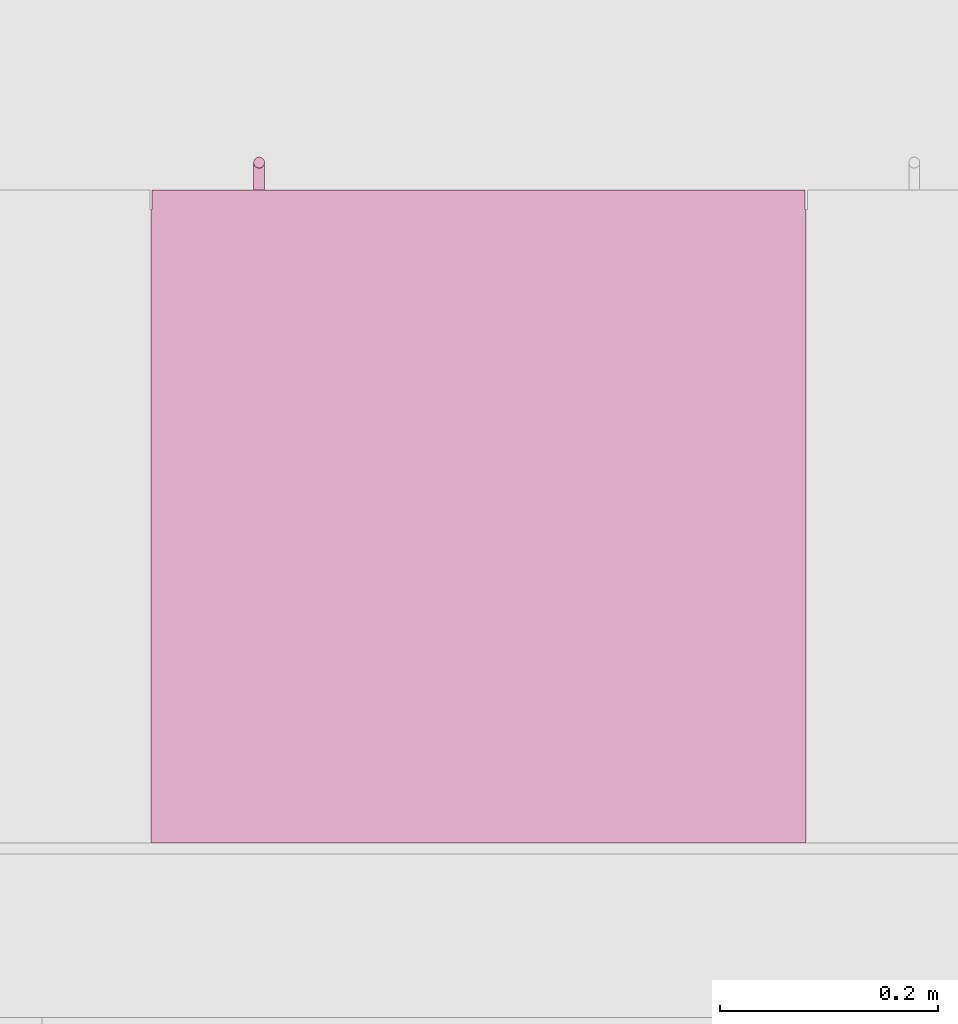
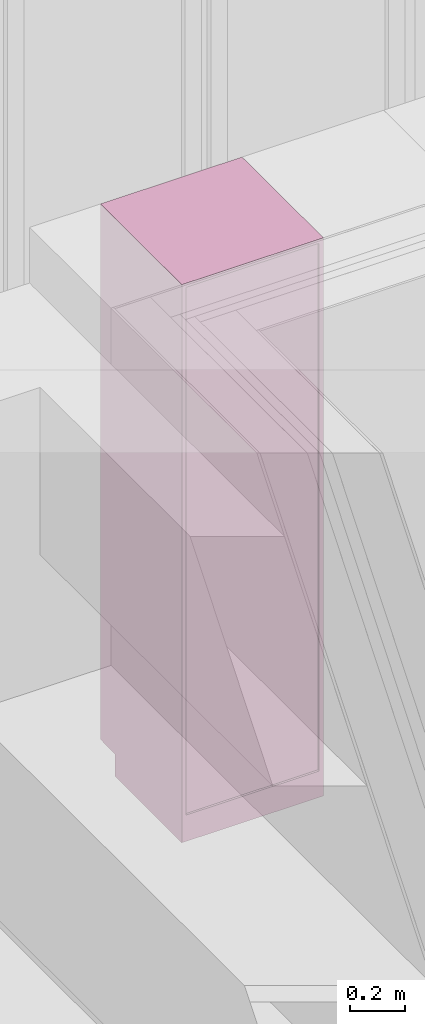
# One storey, part 28 of 34: 1 furniture element.
"""IFC4 building model written with IfcOpenShell, lengths in millimetres."""

from ifc_helpers import new_model, entity, si_unit, converted_unit, derived_unit, direction, frame, origin_with_axes, place, context, subcontext, project, spatial, polygons, source, transform, mapped, type_object, element, save


model = new_model("IFC4")

# Units and contexts
model_context = context("Model", 3, precision=0.01, world=origin_with_axes(), true_north=direction((0.0, 1.0)))
body_context = subcontext(model_context, "Body", "Model", "MODEL_VIEW")
ifc_project = project(units=[si_unit("LENGTHUNIT", "METRE", prefix="MILLI"), si_unit("AREAUNIT", "SQUARE_METRE"), si_unit("VOLUMEUNIT", "CUBIC_METRE"), converted_unit("PLANEANGLEUNIT", "DEGREE", entity("IfcPlaneAngleMeasure", 0.0174532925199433), si_unit("PLANEANGLEUNIT", "RADIAN"), dimensions=[0, 0, 0, 0, 0, 0, 0]), converted_unit("TIMEUNIT", "Year", entity("IfcTimeMeasure", 31557600.0), si_unit("TIMEUNIT", "SECOND"), dimensions=[0, 0, 1, 0, 0, 0, 0]), si_unit("MASSUNIT", "GRAM", prefix="KILO"), si_unit("THERMODYNAMICTEMPERATUREUNIT", "DEGREE_CELSIUS"), si_unit("LUMINOUSINTENSITYUNIT", "LUMEN"), si_unit("ENERGYUNIT", "JOULE", prefix="MEGA"), derived_unit("THERMALCONDUCTANCEUNIT", [(si_unit("POWERUNIT", "WATT"), 1), (si_unit("LENGTHUNIT", "METRE"), -1), (si_unit("THERMODYNAMICTEMPERATUREUNIT", "KELVIN"), -1)]), derived_unit("SPECIFICHEATCAPACITYUNIT", [(si_unit("ENERGYUNIT", "JOULE"), 1), (si_unit("MASSUNIT", "GRAM", prefix="KILO"), -1), (si_unit("THERMODYNAMICTEMPERATUREUNIT", "KELVIN"), -1)]), derived_unit("MASSDENSITYUNIT", [(si_unit("MASSUNIT", "GRAM", prefix="KILO"), 1), (si_unit("VOLUMEUNIT", "CUBIC_METRE"), -1)])], contexts=[model_context])

# Site, building, storey
site_placement = place(None, origin_with_axes())
site = spatial("IfcSite", under=ifc_project, at=site_placement, Name="Gelände", CompositionType="ELEMENT")
building_placement = place(site_placement, origin_with_axes())
building = spatial("IfcBuilding", under=site, at=building_placement, Name="Gebäude", CompositionType="ELEMENT")
storey_placement = place(building_placement, frame((0.0, 0.0, 5799.999999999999), z_axis=(0.0, 0.0, 1.0), x_axis=(1.0, 0.0, 0.0)))
storey = spatial("IfcBuildingStorey", under=building, at=storey_placement, Name="2.OG", CompositionType="ELEMENT", Elevation=5800.0)

# Furniture
furniture_type = type_object("IfcFurnitureType", Name="Stehender Schrank Block 27", AssemblyPlace="NOTDEFINED", PredefinedType="NOTDEFINED")
shared_shape = source(origin_with_axes(), body_context, "Body", "Tessellation", [
    polygons([(501.8682408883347, -597.9999999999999, 1352.799038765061), (502.7101007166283, -597.9999999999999, 1352.573463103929), (503.4999999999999, -597.9999999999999, 1352.205127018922), (504.2139380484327, -597.9999999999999, 1351.705222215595), (504.8302222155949, -597.9999999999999, 1351.088938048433), (505.3301270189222, -597.9999999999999, 1350.375), (505.6984631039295, -597.9999999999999, 1349.585100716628), (505.924038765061, -597.9999999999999, 1348.743240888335), (506.0, -597.9999999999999, 1347.875), (505.924038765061, -597.9999999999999, 1347.006759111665), (505.6984631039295, -597.9999999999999, 1346.164899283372), (505.3301270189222, -597.9999999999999, 1345.375), (504.8302222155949, -597.9999999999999, 1344.661061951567), (504.2139380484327, -597.9999999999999, 1344.044777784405), (503.4999999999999, -597.9999999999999, 1343.544872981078), (502.7101007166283, -597.9999999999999, 1343.176536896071), (501.8682408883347, -597.9999999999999, 1342.950961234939), (501.0, -597.9999999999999, 1342.875), (500.1317591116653, -597.9999999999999, 1342.950961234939), (499.2898992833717, -597.9999999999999, 1343.176536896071), (498.5, -597.9999999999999, 1343.544872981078), (497.7860619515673, -597.9999999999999, 1344.044777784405), (497.1697777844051, -597.9999999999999, 1344.661061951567), (496.6698729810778, -597.9999999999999, 1345.375), (496.3015368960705, -597.9999999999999, 1346.164899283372), (496.075961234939, -597.9999999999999, 1347.006759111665), (496.0, -597.9999999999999, 1347.875), (496.075961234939, -597.9999999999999, 1348.743240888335), (496.3015368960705, -597.9999999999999, 1349.585100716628), (496.6698729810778, -597.9999999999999, 1350.375), (497.1697777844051, -597.9999999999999, 1351.088938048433), (497.7860619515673, -597.9999999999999, 1351.705222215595), (498.5, -597.9999999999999, 1352.205127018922), (499.2898992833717, -597.9999999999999, 1352.573463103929), (500.1317591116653, -597.9999999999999, 1352.799038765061), (501.0, -597.9999999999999, 1352.875), (501.8682408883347, -622.9999999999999, 1352.799038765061), (502.7101007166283, -622.9999999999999, 1352.573463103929), (503.4999999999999, -622.9999999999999, 1352.205127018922), (504.2139380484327, -622.9999999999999, 1351.705222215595), (504.8302222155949, -622.9999999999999, 1351.088938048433), (505.3301270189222, -622.9999999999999, 1350.375), (505.6984631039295, -622.9999999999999, 1349.585100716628), (505.924038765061, -622.9999999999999, 1348.743240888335), (506.0, -622.9999999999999, 1347.875), (505.924038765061, -622.9999999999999, 1347.006759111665), (505.6984631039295, -622.9999999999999, 1346.164899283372), (505.3301270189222, -622.9999999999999, 1345.375), (504.8302222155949, -622.9999999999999, 1344.661061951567), (504.2139380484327, -622.9999999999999, 1344.044777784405), (503.4999999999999, -622.9999999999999, 1343.544872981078), (502.7101007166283, -622.9999999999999, 1343.176536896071), (501.8682408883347, -622.9999999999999, 1342.950961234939), (501.0, -622.9999999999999, 1342.875), (500.1317591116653, -622.9999999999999, 1342.950961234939), (499.2898992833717, -622.9999999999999, 1343.176536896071), (498.5, -622.9999999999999, 1343.544872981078), (497.7860619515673, -622.9999999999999, 1344.044777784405), (497.1697777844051, -622.9999999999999, 1344.661061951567), (496.6698729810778, -622.9999999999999, 1345.375), (496.3015368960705, -622.9999999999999, 1346.164899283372), (496.075961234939, -622.9999999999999, 1347.006759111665), (496.0, -622.9999999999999, 1347.875), (496.075961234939, -622.9999999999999, 1348.743240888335), (496.3015368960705, -622.9999999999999, 1349.585100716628), (496.6698729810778, -622.9999999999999, 1350.375), (497.1697777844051, -622.9999999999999, 1351.088938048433), (497.7860619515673, -622.9999999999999, 1351.705222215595), (498.5, -622.9999999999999, 1352.205127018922), (499.2898992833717, -622.9999999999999, 1352.573463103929), (500.1317591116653, -622.9999999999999, 1352.799038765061), (501.0, -622.9999999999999, 1352.875)], [[[1, 2, 3, 4, 5, 6, 7, 8, 9, 10, 11, 12, 13, 14, 15, 16, 17, 18, 19, 20, 21, 22, 23, 24, 25, 26, 27, 28, 29, 30, 31, 32, 33, 34, 35, 36]], [[2, 1, 37, 38]], [[3, 2, 38, 39]], [[4, 3, 39, 40]], [[5, 4, 40, 41]], [[6, 5, 41, 42]], [[7, 6, 42, 43]], [[8, 7, 43, 44]], [[9, 8, 44, 45]], [[10, 9, 45, 46]], [[11, 10, 46, 47]], [[12, 11, 47, 48]], [[13, 12, 48, 49]], [[14, 13, 49, 50]], [[15, 14, 50, 51]], [[16, 15, 51, 52]], [[17, 16, 52, 53]], [[18, 17, 53, 54]], [[19, 18, 54, 55]], [[20, 19, 55, 56]], [[21, 20, 56, 57]], [[22, 21, 57, 58]], [[23, 22, 58, 59]], [[24, 23, 59, 60]], [[25, 24, 60, 61]], [[26, 25, 61, 62]], [[27, 26, 62, 63]], [[28, 27, 63, 64]], [[29, 28, 64, 65]], [[30, 29, 65, 66]], [[31, 30, 66, 67]], [[32, 31, 67, 68]], [[33, 32, 68, 69]], [[34, 33, 69, 70]], [[35, 34, 70, 71]], [[36, 35, 71, 72]], [[1, 36, 72, 37]], [[37, 72, 71, 70, 69, 68, 67, 66, 65, 64, 63, 62, 61, 60, 59, 58, 57, 56, 55, 54, 53, 52, 51, 50, 49, 48, 47, 46, 45, 44, 43, 42, 41, 40, 39, 38]]], closed=True),
    polygons([(501.8682408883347, -597.9999999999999, 1249.200961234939), (501.0, -597.9999999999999, 1249.125), (500.1317591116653, -597.9999999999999, 1249.200961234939), (499.2898992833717, -597.9999999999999, 1249.426536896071), (498.5, -597.9999999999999, 1249.794872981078), (497.7860619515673, -597.9999999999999, 1250.294777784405), (497.1697777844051, -597.9999999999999, 1250.911061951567), (496.6698729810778, -597.9999999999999, 1251.625), (496.3015368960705, -597.9999999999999, 1252.414899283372), (496.075961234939, -597.9999999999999, 1253.256759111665), (496.0, -597.9999999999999, 1254.125), (496.075961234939, -597.9999999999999, 1254.993240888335), (496.3015368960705, -597.9999999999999, 1255.835100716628), (496.6698729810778, -597.9999999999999, 1256.625), (497.1697777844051, -597.9999999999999, 1257.338938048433), (497.7860619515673, -597.9999999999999, 1257.955222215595), (498.5, -597.9999999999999, 1258.455127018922), (499.2898992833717, -597.9999999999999, 1258.823463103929), (500.1317591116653, -597.9999999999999, 1259.049038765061), (501.0, -597.9999999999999, 1259.125), (501.8682408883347, -597.9999999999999, 1259.049038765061), (502.7101007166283, -597.9999999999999, 1258.823463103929), (503.4999999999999, -597.9999999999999, 1258.455127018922), (504.2139380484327, -597.9999999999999, 1257.955222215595), (504.8302222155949, -597.9999999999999, 1257.338938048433), (505.3301270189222, -597.9999999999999, 1256.625), (505.6984631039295, -597.9999999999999, 1255.835100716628), (505.924038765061, -597.9999999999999, 1254.993240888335), (506.0, -597.9999999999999, 1254.125), (505.924038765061, -597.9999999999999, 1253.256759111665), (505.6984631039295, -597.9999999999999, 1252.414899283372), (505.3301270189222, -597.9999999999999, 1251.625), (504.8302222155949, -597.9999999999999, 1250.911061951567), (504.2139380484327, -597.9999999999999, 1250.294777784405), (503.4999999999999, -597.9999999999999, 1249.794872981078), (502.7101007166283, -597.9999999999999, 1249.426536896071), (501.8682408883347, -622.9999999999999, 1249.200961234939), (501.0, -622.9999999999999, 1249.125), (500.1317591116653, -622.9999999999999, 1249.200961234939), (499.2898992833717, -622.9999999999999, 1249.426536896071), (498.5, -622.9999999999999, 1249.794872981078), (497.7860619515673, -622.9999999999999, 1250.294777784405), (497.1697777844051, -622.9999999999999, 1250.911061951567), (496.6698729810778, -622.9999999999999, 1251.625), (496.3015368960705, -622.9999999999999, 1252.414899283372), (496.075961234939, -622.9999999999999, 1253.256759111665), (496.0, -622.9999999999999, 1254.125), (496.075961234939, -622.9999999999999, 1254.993240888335), (496.3015368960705, -622.9999999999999, 1255.835100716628), (496.6698729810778, -622.9999999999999, 1256.625), (497.1697777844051, -622.9999999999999, 1257.338938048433), (497.7860619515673, -622.9999999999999, 1257.955222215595), (498.5, -622.9999999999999, 1258.455127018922), (499.2898992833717, -622.9999999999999, 1258.823463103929), (500.1317591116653, -622.9999999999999, 1259.049038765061), (501.0, -622.9999999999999, 1259.125), (501.8682408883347, -622.9999999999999, 1259.049038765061), (502.7101007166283, -622.9999999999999, 1258.823463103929), (503.4999999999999, -622.9999999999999, 1258.455127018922), (504.2139380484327, -622.9999999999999, 1257.955222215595), (504.8302222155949, -622.9999999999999, 1257.338938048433), (505.3301270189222, -622.9999999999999, 1256.625), (505.6984631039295, -622.9999999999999, 1255.835100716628), (505.924038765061, -622.9999999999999, 1254.993240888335), (506.0, -622.9999999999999, 1254.125), (505.924038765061, -622.9999999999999, 1253.256759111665), (505.6984631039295, -622.9999999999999, 1252.414899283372), (505.3301270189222, -622.9999999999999, 1251.625), (504.8302222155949, -622.9999999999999, 1250.911061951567), (504.2139380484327, -622.9999999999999, 1250.294777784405), (503.4999999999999, -622.9999999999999, 1249.794872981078), (502.7101007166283, -622.9999999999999, 1249.426536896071)], [[[1, 2, 3, 4, 5, 6, 7, 8, 9, 10, 11, 12, 13, 14, 15, 16, 17, 18, 19, 20, 21, 22, 23, 24, 25, 26, 27, 28, 29, 30, 31, 32, 33, 34, 35, 36]], [[1, 37, 38, 2]], [[2, 38, 39, 3]], [[3, 39, 40, 4]], [[4, 40, 41, 5]], [[5, 41, 42, 6]], [[6, 42, 43, 7]], [[7, 43, 44, 8]], [[8, 44, 45, 9]], [[9, 45, 46, 10]], [[10, 46, 47, 11]], [[11, 47, 48, 12]], [[12, 48, 49, 13]], [[13, 49, 50, 14]], [[14, 50, 51, 15]], [[15, 51, 52, 16]], [[16, 52, 53, 17]], [[17, 53, 54, 18]], [[18, 54, 55, 19]], [[19, 55, 56, 20]], [[20, 56, 57, 21]], [[21, 57, 58, 22]], [[22, 58, 59, 23]], [[23, 59, 60, 24]], [[24, 60, 61, 25]], [[25, 61, 62, 26]], [[26, 62, 63, 27]], [[27, 63, 64, 28]], [[28, 64, 65, 29]], [[29, 65, 66, 30]], [[30, 66, 67, 31]], [[31, 67, 68, 32]], [[32, 68, 69, 33]], [[33, 69, 70, 34]], [[34, 70, 71, 35]], [[35, 71, 72, 36]], [[36, 72, 37, 1]], [[37, 72, 71, 70, 69, 68, 67, 66, 65, 64, 63, 62, 61, 60, 59, 58, 57, 56, 55, 54, 53, 52, 51, 50, 49, 48, 47, 46, 45, 44, 43, 42, 41, 40, 39, 38]]], closed=True),
    polygons([(501.8682408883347, -618.0759612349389, 1226.0), (502.7101007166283, -618.3015368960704, 1226.0), (503.4999999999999, -618.6698729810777, 1226.0), (504.2139380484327, -619.1697777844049, 1226.0), (504.8302222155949, -619.7860619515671, 1226.0), (505.3301270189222, -620.4999999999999, 1226.0), (505.6984631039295, -621.2898992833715, 1226.0), (505.924038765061, -622.1317591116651, 1226.0), (506.0, -622.9999999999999, 1226.0), (505.924038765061, -623.8682408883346, 1226.0), (505.6984631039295, -624.7101007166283, 1226.0), (505.3301270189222, -625.4999999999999, 1226.0), (504.8302222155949, -626.2139380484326, 1226.0), (504.2139380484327, -626.8302222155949, 1226.0), (503.4999999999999, -627.3301270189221, 1226.0), (502.7101007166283, -627.6984631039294, 1226.0), (501.8682408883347, -627.924038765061, 1226.0), (501.0, -627.9999999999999, 1226.0), (500.1317591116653, -627.924038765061, 1226.0), (499.2898992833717, -627.6984631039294, 1226.0), (498.5, -627.3301270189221, 1226.0), (497.7860619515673, -626.8302222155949, 1226.0), (497.1697777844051, -626.2139380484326, 1226.0), (496.6698729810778, -625.4999999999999, 1226.0), (496.3015368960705, -624.7101007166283, 1226.0), (496.075961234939, -623.8682408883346, 1226.0), (496.0, -622.9999999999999, 1226.0), (496.075961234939, -622.1317591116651, 1226.0), (496.3015368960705, -621.2898992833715, 1226.0), (496.6698729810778, -620.4999999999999, 1226.0), (497.1697777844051, -619.7860619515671, 1226.0), (497.7860619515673, -619.1697777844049, 1226.0), (498.5, -618.6698729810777, 1226.0), (499.2898992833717, -618.3015368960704, 1226.0), (500.1317591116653, -618.0759612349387, 1226.0), (501.0, -617.9999999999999, 1226.0), (501.8682408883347, -618.0759612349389, 1376.0), (502.7101007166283, -618.3015368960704, 1376.0), (503.5000000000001, -618.6698729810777, 1376.0), (504.2139380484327, -619.1697777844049, 1376.0), (504.8302222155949, -619.7860619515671, 1376.0), (505.3301270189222, -620.4999999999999, 1376.0), (505.6984631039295, -621.2898992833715, 1376.0), (505.9240387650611, -622.1317591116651, 1376.0), (506.0, -622.9999999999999, 1376.0), (505.9240387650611, -623.8682408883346, 1376.0), (505.6984631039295, -624.7101007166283, 1376.0), (505.3301270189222, -625.4999999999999, 1376.0), (504.8302222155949, -626.2139380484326, 1376.0), (504.2139380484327, -626.8302222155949, 1376.0), (503.5000000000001, -627.3301270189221, 1376.0), (502.7101007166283, -627.6984631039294, 1376.0), (501.8682408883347, -627.924038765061, 1376.0), (501.0, -627.9999999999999, 1376.0), (500.1317591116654, -627.924038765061, 1376.0), (499.2898992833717, -627.6984631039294, 1376.0), (498.5, -627.3301270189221, 1376.0), (497.7860619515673, -626.8302222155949, 1376.0), (497.1697777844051, -626.2139380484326, 1376.0), (496.6698729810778, -625.4999999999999, 1376.0), (496.3015368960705, -624.7101007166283, 1376.0), (496.075961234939, -623.8682408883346, 1376.0), (496.0, -622.9999999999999, 1376.0), (496.075961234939, -622.1317591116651, 1376.0), (496.3015368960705, -621.2898992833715, 1376.0), (496.6698729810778, -620.4999999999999, 1376.0), (497.1697777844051, -619.7860619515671, 1376.0), (497.7860619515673, -619.1697777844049, 1376.0), (498.5, -618.6698729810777, 1376.0), (499.2898992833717, -618.3015368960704, 1376.0), (500.1317591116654, -618.0759612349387, 1376.0), (501.0, -617.9999999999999, 1376.0)], [[[1, 2, 3, 4, 5, 6, 7, 8, 9, 10, 11, 12, 13, 14, 15, 16, 17, 18, 19, 20, 21, 22, 23, 24, 25, 26, 27, 28, 29, 30, 31, 32, 33, 34, 35, 36]], [[2, 1, 37, 38]], [[3, 2, 38, 39]], [[4, 3, 39, 40]], [[5, 4, 40, 41]], [[6, 5, 41, 42]], [[7, 6, 42, 43]], [[8, 7, 43, 44]], [[9, 8, 44, 45]], [[10, 9, 45, 46]], [[11, 10, 46, 47]], [[12, 11, 47, 48]], [[13, 12, 48, 49]], [[14, 13, 49, 50]], [[15, 14, 50, 51]], [[16, 15, 51, 52]], [[17, 16, 52, 53]], [[18, 17, 53, 54]], [[19, 18, 54, 55]], [[20, 19, 55, 56]], [[21, 20, 56, 57]], [[22, 21, 57, 58]], [[23, 22, 58, 59]], [[24, 23, 59, 60]], [[25, 24, 60, 61]], [[26, 25, 61, 62]], [[27, 26, 62, 63]], [[28, 27, 63, 64]], [[29, 28, 64, 65]], [[30, 29, 65, 66]], [[31, 30, 66, 67]], [[32, 31, 67, 68]], [[33, 32, 68, 69]], [[34, 33, 69, 70]], [[35, 34, 70, 71]], [[36, 35, 71, 72]], [[1, 36, 72, 37]], [[37, 72, 71, 70, 69, 68, 67, 66, 65, 64, 63, 62, 61, 60, 59, 58, 57, 56, 55, 54, 53, 52, 51, 50, 49, 48, 47, 46, 45, 44, 43, 42, 41, 40, 39, 38]]], closed=True),
    polygons([(1.0, -580.0, 101.0), (599.0, -580.0, 101.0), (599.0, -598.0, 101.0), (1.0, -598.0, 101.0), (1.0, -579.9999999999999, 2499.0), (599.0, -579.9999999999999, 2499.0), (599.0, -597.9999999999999, 2499.0), (1.0, -597.9999999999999, 2499.0)], [[[1, 2, 3, 4]], [[1, 5, 6, 2]], [[2, 6, 7, 3]], [[4, 3, 7, 8]], [[5, 1, 4, 8]], [[6, 5, 8, 7]]], closed=True),
    polygons([(18.0, -580.0, 100.0), (582.0, -580.0, 100.0), (582.0, -580.0, 118.0), (18.0, -580.0, 118.0), (18.0, 0.0, 100.0), (582.0, 0.0, 100.0), (582.0, 0.0, 118.0), (18.0, 0.0, 118.0)], [[[1, 2, 3, 4]], [[1, 5, 6, 2]], [[2, 6, 7, 3]], [[4, 3, 7, 8]], [[5, 1, 4, 8]], [[6, 5, 8, 7]]], closed=True),
    polygons([(18.0, -580.0, 2482.0), (582.0, -580.0, 2482.0), (582.0, -580.0, 2500.0), (18.0, -580.0, 2500.0), (18.0, 0.0, 2482.0), (582.0, 0.0, 2482.0), (582.0, 0.0, 2500.0), (18.0, 0.0, 2500.0)], [[[1, 2, 3, 4]], [[1, 5, 6, 2]], [[2, 6, 7, 3]], [[4, 3, 7, 8]], [[5, 1, 4, 8]], [[6, 5, 8, 7]]], closed=True),
    polygons([(0.0, 0.0, 100.0), (0.0, -580.0, 100.0), (0.0, -580.0, 2500.0), (0.0, 0.0, 2500.0), (18.0, 0.0, 100.0), (18.0, -580.0, 100.0), (18.0, -580.0, 2500.0), (18.0, 0.0, 2500.0)], [[[1, 2, 3, 4]], [[1, 5, 6, 2]], [[2, 6, 7, 3]], [[4, 3, 7, 8]], [[5, 1, 4, 8]], [[6, 5, 8, 7]]], closed=True),
    polygons([(600.0, -580.0, 100.0), (600.0, 0.0, 100.0), (600.0, 0.0, 2500.0), (600.0, -580.0, 2500.0), (582.0, -580.0, 100.0), (582.0, 0.0, 100.0), (582.0, 0.0, 2500.0), (582.0, -580.0, 2500.0)], [[[1, 2, 3, 4]], [[1, 5, 6, 2]], [[2, 6, 7, 3]], [[4, 3, 7, 8]], [[5, 1, 4, 8]], [[6, 5, 8, 7]]], closed=True),
    polygons([(582.0, -9.0, 118.0), (18.00000000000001, -9.0, 118.0), (18.00000000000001, -9.0, 2482.0), (582.0, -9.0, 2482.0), (582.0, -18.0, 118.0), (18.00000000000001, -18.0, 118.0), (18.00000000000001, -18.0, 2482.0), (582.0, -18.0, 2482.0)], [[[1, 2, 3, 4]], [[1, 5, 6, 2]], [[2, 6, 7, 3]], [[4, 3, 7, 8]], [[5, 1, 4, 8]], [[6, 5, 8, 7]]], closed=True),
    polygons([(0.0, -490.0, 0.0), (600.0, -490.0, 0.0), (600.0, -490.0, 100.0), (0.0, -490.0, 100.0), (0.0, 0.0, 0.0), (600.0, 0.0, 0.0), (600.0, 0.0, 100.0), (0.0, 0.0, 100.0)], [[[1, 2, 3, 4]], [[1, 5, 6, 2]], [[2, 6, 7, 3]], [[4, 3, 7, 8]], [[5, 1, 4, 8]], [[6, 5, 8, 7]]], closed=True),
])
furniture_placement = place(storey_placement, frame((8928.997444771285, 34847.59728131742, 150.0000000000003), z_axis=(0.0, 0.0, 1.0), x_axis=(-1.0, 0.0, 0.0)))
element("IfcFurniture", 1, at=furniture_placement, inside=storey, type_object=furniture_type, Name="Möbel-021", PredefinedType="NOTDEFINED", context=body_context, shape_type="MappedRepresentation", body=[
    mapped(shared_shape, transform((0.0, 0.0, 0.0))),
])

save(model, "model.ifc")
